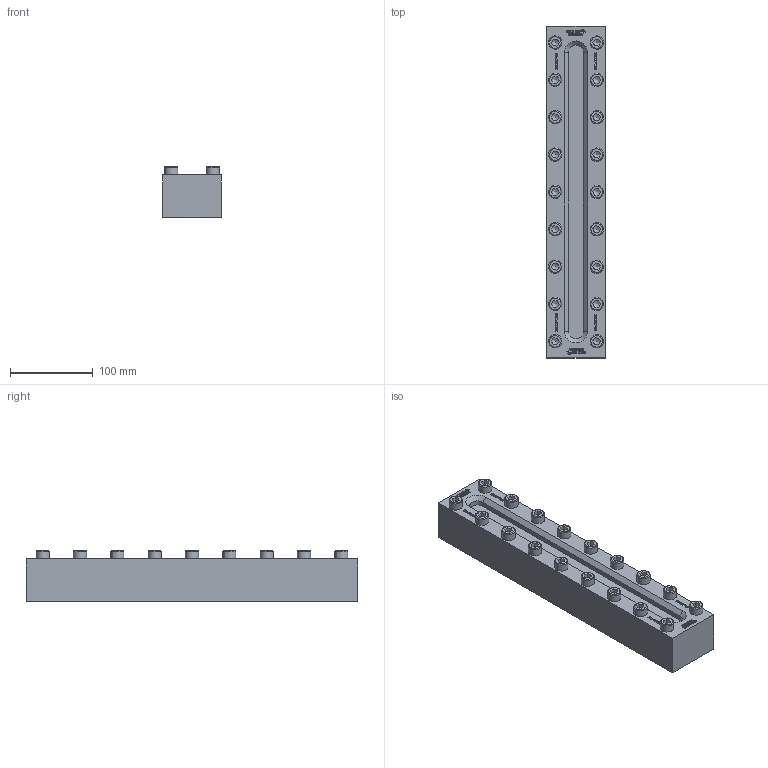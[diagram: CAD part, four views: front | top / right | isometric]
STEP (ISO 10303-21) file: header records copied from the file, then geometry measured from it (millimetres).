
FILE_DESCRIPTION(/* description */ (''),/* implementation_level */ '2;1');
FILE_NAME(/* name */ 'W:\Konstruktion_ACI\330\_Zeichnungen\STEP\ACI-330-400-16.stp',/* time_stamp */ '2022-03-01T17:15:57+01:00',/* author */ ('koslowksi'),/* organization */ (''),/* preprocessor_version */ 'ST-DEVELOPER v16.1',/* originating_system */ 'Autodesk Inventor 2016',/* authorisation */ '');
FILE_SCHEMA (('AUTOMOTIVE_DESIGN { 1 0 10303 214 3 1 1 }'));
Length unit declared in the file: centimetre
Products named in the file (1): ACI-330-400-16.stp
Bounding box: 70 x 400 x 60.9 mm (x, y, z)
Volume: 1284494.8 mm3; surface area: 132191.6 mm2
Topology: 1 solids, 1 shells, 1306 faces, 3530 edges, 2346 vertices
Faces by surface type: plane 928, bspline 318, cylinder 22, cone 20, torus 18
Full cylindrical faces by diameter (mm): 16 x18
Entity records: 42710 total; most frequent: CARTESIAN_POINT 11407, ORIENTED_EDGE 6880, DIRECTION 4738, EDGE_CURVE 3440, LINE 2632, VECTOR 2632, VERTEX_POINT 2310, EDGE_LOOP 1480
